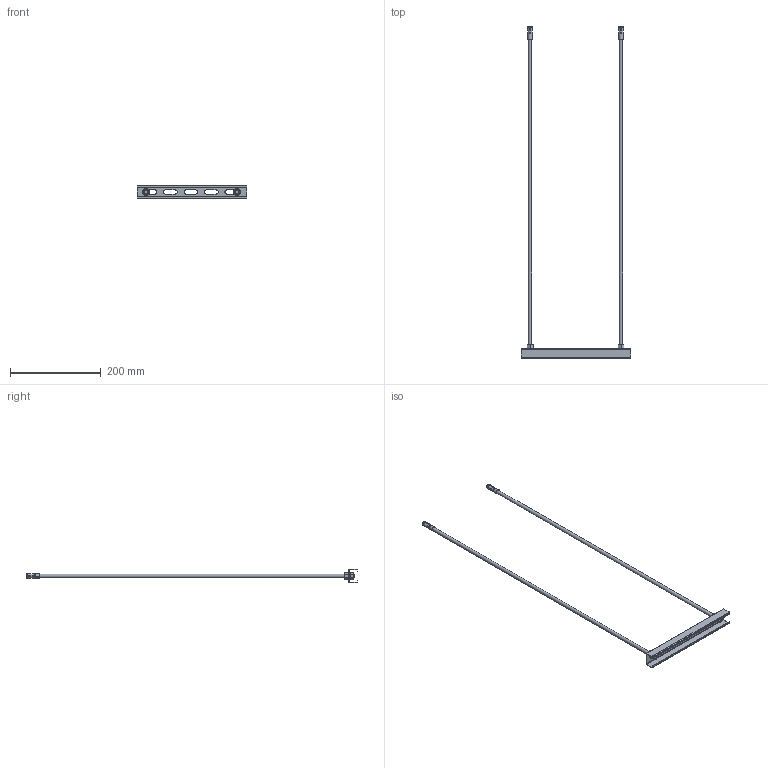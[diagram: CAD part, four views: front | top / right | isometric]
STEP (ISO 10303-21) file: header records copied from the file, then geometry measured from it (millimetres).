
FILE_DESCRIPTION (( 'STEP AP214' ), '1' );
FILE_NAME ('01 珫100.STEP', '2016-09-20T09:39:59', ( '' ), ( '' ), 'SwSTEP 2.0', 'SolidWorks 2016', '' );
FILE_SCHEMA (( 'AUTOMOTIVE_DESIGN' ));
Length unit declared in the file: millimetre
Products named in the file (8): 064829 ØÏ8-2_˜¯¨«ìª  Œ8-6gå700 ƒŽ‘’ 22034-76; 068089 ﾘﾌ8_丐ｩ｡ A.8 ヮ葬 11371-78; hex nut gradec_iso_Hexagon Nut ISO - 4034 - M8 - N; ﾀ渼褞 鈞礪粹鵫; 抔鴈 燴耪譇; Òðóáêà Àíêåðà çàáèâíîãî; 051901 珫-100_240; 01 珫100
Assembly tree (15 placements, depth 3):
  01 珫100
    051901 珫-100_240
    ﾀ渼褞 鈞礪粹鵫  x2
      Òðóáêà Àíêåðà çàáèâíîãî
      抔鴈 燴耪譇
    hex nut gradec_iso_Hexagon Nut ISO - 4034 - M8 - N  x4
    068089 ﾘﾌ8_丐ｩ｡ A.8 ヮ葬 11371-78  x4
    064829 ØÏ8-2_˜¯¨«ìª  Œ8-6gå700 ƒŽ‘’ 22034-76  x2
Bounding box: 240 x 730.1 x 30 mm (x, y, z)
Volume: 92525.3 mm3; surface area: 77797.5 mm2
Topology: 15 solids, 15 shells, 378 faces, 914 edges, 568 vertices
Faces by surface type: plane 134, cylinder 96, cone 84, torus 64
Entity records: 6331 total; most frequent: CARTESIAN_POINT 1630, DIRECTION 909, ORIENTED_EDGE 906, EDGE_CURVE 453, AXIS2_PLACEMENT_3D 353, VERTEX_POINT 282, VECTOR 203, LINE 203
